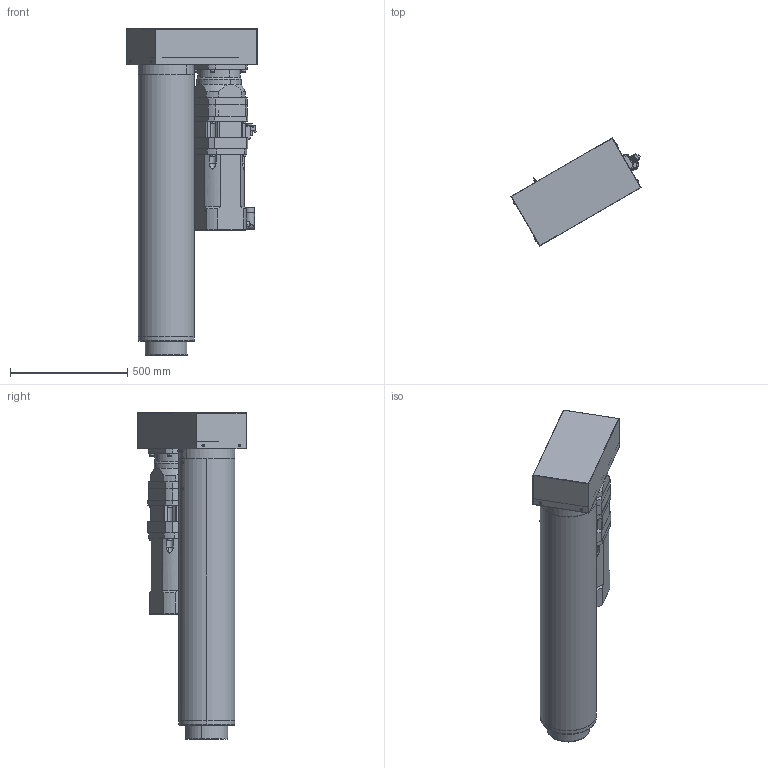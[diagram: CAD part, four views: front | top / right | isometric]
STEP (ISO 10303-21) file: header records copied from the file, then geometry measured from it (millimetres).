
FILE_DESCRIPTION (( 'STEP AP214' ), '1' );
FILE_NAME ('RLWPK200D-075-010SG0.STEP', '2023-04-06T06:38:46', ( '' ), ( '' ), 'SwSTEP 2.0', 'SolidWorks 2021', '' );
FILE_SCHEMA (( 'AUTOMOTIVE_DESIGN' ));
Length unit declared in the file: millimetre
Products named in the file (1): RLWPK200D-075-010SG0
Bounding box: 555.1 x 462.49 x 1392 mm (x, y, z)
Surface area: 4788475.5 mm2 (no closed solid volume)
Topology: 0 solids, 44 shells, 1710 faces, 4075 edges, 2482 vertices
Faces by surface type: plane 686, cylinder 680, cone 256, torus 78, bspline 10
Entity records: 69479 total; most frequent: CARTESIAN_POINT 10355, DIRECTION 8848, ORIENTED_EDGE 7814, EDGE_CURVE 3913, AXIS2_PLACEMENT_3D 3394, VERTEX_POINT 2482, LINE 2060, VECTOR 2060
